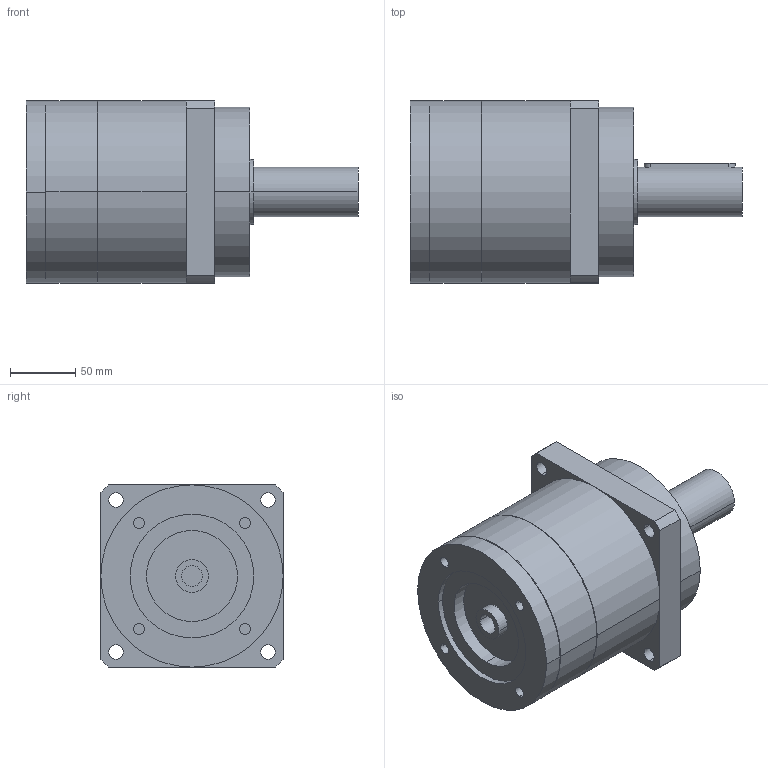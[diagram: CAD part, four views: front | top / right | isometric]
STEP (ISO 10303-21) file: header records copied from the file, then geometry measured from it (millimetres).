
FILE_DESCRIPTION(('CoCreate Modeling STEP Export'),'2;1');
FILE_NAME('GPR150_ig-3-4-5-7_38_B5_16_P03.stp','2014-08-19T16:41:48',(''),(''),'CoCreate Modeling STEP processor for AP214 (Solid Model)','CoCreate Modeling 16.00C 25-Feb-2009 (C) Parametric Technology GmbH','');
FILE_SCHEMA(('AUTOMOTIVE_DESIGN { 1 0 10303 214 1 1 1 1 }'));
Length unit declared in the file: millimetre
Products named in the file (2): GPR150_ig-3-4-5-7_38_B5_16_P03
Assembly tree (1 placements, depth 2):
  GPR150_ig-3-4-5-7_38_B5_16_P03
    GPR150_ig-3-4-5-7_38_B5_16_P03
Bounding box: 255 x 140 x 140 mm (x, y, z)
Volume: 2688410.9 mm3; surface area: 139070.4 mm2
Topology: 1 solids, 1 shells, 88 faces, 224 edges, 154 vertices
Faces by surface type: cylinder 52, plane 30, cone 6
Entity records: 2332 total; most frequent: ORIENTED_EDGE 444, CARTESIAN_POINT 427, DIRECTION 322, EDGE_CURVE 222, VERTEX_POINT 154, AXIS2_PLACEMENT_3D 121, EDGE_LOOP 114, FACE_OUTER_BOUND 88
